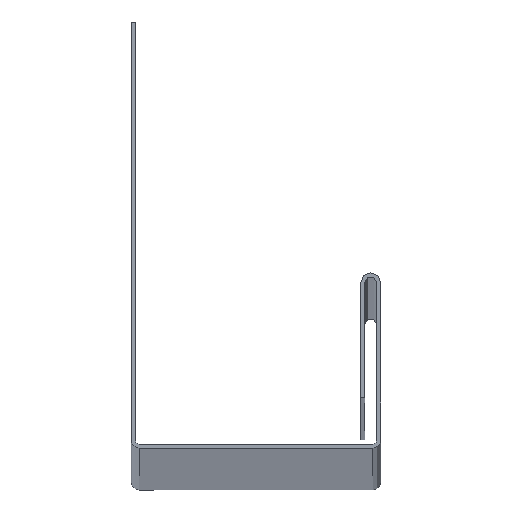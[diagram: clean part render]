
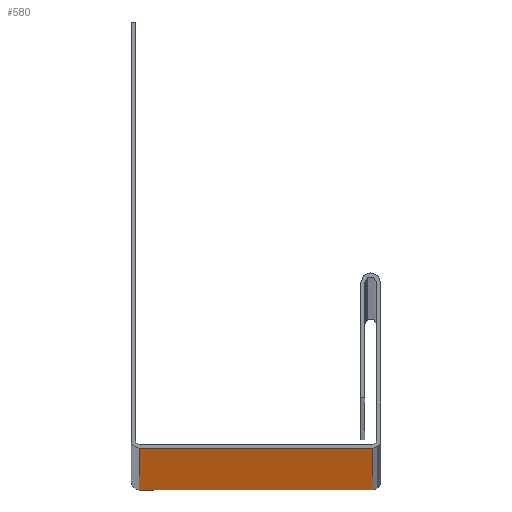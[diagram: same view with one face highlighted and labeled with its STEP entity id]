
A CAD part, top view. The second image highlights one B-rep face of the part: STEP entity #580.
In plain terms, the highlighted planar face has unit normal (0, -1, 0).
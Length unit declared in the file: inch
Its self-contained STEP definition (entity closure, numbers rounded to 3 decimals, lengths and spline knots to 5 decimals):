
#17 = CARTESIAN_POINT ( 'NONE',  ( 0.03937, 0., 120. ) ) ;
#35 = LINE ( 'NONE', #17, #152 ) ;
#84 = CARTESIAN_POINT ( 'NONE',  ( 0.03937, 0., 120. ) ) ;
#93 = EDGE_CURVE ( 'NONE', #162, #543, #374, .T. ) ;
#113 = EDGE_CURVE ( 'NONE', #543, #400, #602, .T. ) ;
#152 = VECTOR ( 'NONE', #449, 39.37008 ) ;
#162 = VERTEX_POINT ( 'NONE', #84 ) ;
#207 = CARTESIAN_POINT ( 'NONE',  ( 0.03937, 0., 0. ) ) ;
#216 = DIRECTION ( 'NONE',  ( 0., 0., -1. ) ) ;
#217 = EDGE_CURVE ( 'NONE', #162, #708, #35, .T. ) ;
#307 = DIRECTION ( 'NONE',  ( 0., 1., 0. ) ) ;
#318 = CARTESIAN_POINT ( 'NONE',  ( 1.20563, 0., 120. ) ) ;
#319 = CARTESIAN_POINT ( 'NONE',  ( 0.03937, 0., 0. ) ) ;
#327 = ORIENTED_EDGE ( 'NONE', *, *, #93, .T. ) ;
#334 = FACE_OUTER_BOUND ( 'NONE', #450, .T. ) ;
#374 = LINE ( 'NONE', #548, #404 ) ;
#398 = DIRECTION ( 'NONE',  ( 1., 0., 0. ) ) ;
#400 = VERTEX_POINT ( 'NONE', #429 ) ;
#404 = VECTOR ( 'NONE', #216, 39.37008 ) ;
#429 = CARTESIAN_POINT ( 'NONE',  ( 1.20563, 0., 0. ) ) ;
#433 = EDGE_CURVE ( 'NONE', #708, #400, #598, .T. ) ;
#449 = DIRECTION ( 'NONE',  ( 1., 0., 0. ) ) ;
#450 = EDGE_LOOP ( 'NONE', ( #553, #505, #551, #327 ) ) ;
#458 = AXIS2_PLACEMENT_3D ( 'NONE', #657, #307, #654 ) ;
#478 = PLANE ( 'NONE',  #458 ) ;
#505 = ORIENTED_EDGE ( 'NONE', *, *, #433, .F. ) ;
#540 = DIRECTION ( 'NONE',  ( 0., 0., -1. ) ) ;
#543 = VERTEX_POINT ( 'NONE', #207 ) ;
#548 = CARTESIAN_POINT ( 'NONE',  ( 0.03937, 0., 120. ) ) ;
#551 = ORIENTED_EDGE ( 'NONE', *, *, #217, .F. ) ;
#553 = ORIENTED_EDGE ( 'NONE', *, *, #113, .T. ) ;
#580 = ADVANCED_FACE ( 'NONE', ( #334 ), #478, .F. ) ;
#594 = CARTESIAN_POINT ( 'NONE',  ( 1.20563, 0., 120. ) ) ;
#598 = LINE ( 'NONE', #318, #720 ) ;
#602 = LINE ( 'NONE', #319, #687 ) ;
#654 = DIRECTION ( 'NONE',  ( 0., 0., 1. ) ) ;
#657 = CARTESIAN_POINT ( 'NONE',  ( 0.03937, 0., 120. ) ) ;
#687 = VECTOR ( 'NONE', #398, 39.37008 ) ;
#708 = VERTEX_POINT ( 'NONE', #594 ) ;
#720 = VECTOR ( 'NONE', #540, 39.37008 ) ;
